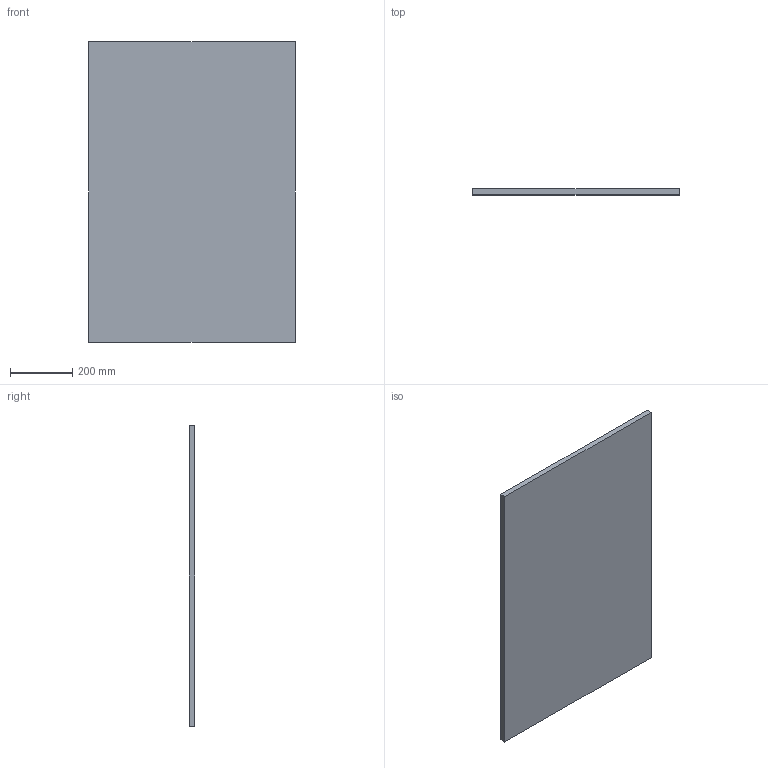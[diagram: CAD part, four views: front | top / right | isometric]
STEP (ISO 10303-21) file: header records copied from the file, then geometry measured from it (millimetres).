
FILE_DESCRIPTION(('Open CASCADE Model'),'2;1');
FILE_NAME('Open CASCADE Shape Model','2026-10-28T20:18:38',('Author'),( 'Open CASCADE'),'Open CASCADE STEP processor 7.8','Open CASCADE 7.8' ,'Unknown');
FILE_SCHEMA(('AUTOMOTIVE_DESIGN { 1 0 10303 214 1 1 1 1 }'));
Length unit declared in the file: millimetre
Products named in the file (1): Open CASCADE STEP translator 7.8 13
Bounding box: 664 x 18 x 964 mm (x, y, z)
Volume: 11521728 mm3; surface area: 1338800 mm2
Topology: 1 solids, 1 shells, 6 faces, 12 edges, 8 vertices
Faces by surface type: plane 6
Entity records: 322 total; most frequent: CARTESIAN_POINT 51, DIRECTION 50, LINE 36, VECTOR 36, ORIENTED_EDGE 24, PCURVE 24, DEFINITIONAL_REPRESENTATION 24, EDGE_CURVE 12
